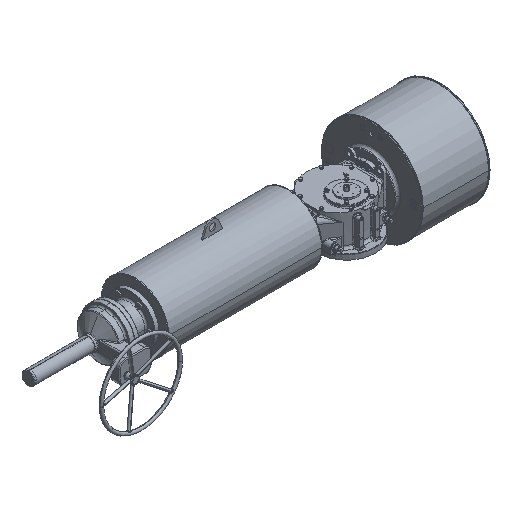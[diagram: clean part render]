
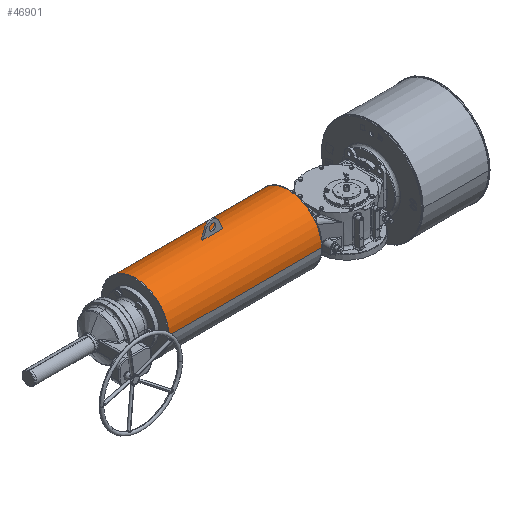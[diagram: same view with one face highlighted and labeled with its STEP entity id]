
A CAD part, isometric view. The second image highlights one B-rep face of the part: STEP entity #46901.
In plain terms, the highlighted cylindrical face has radius 203.2 mm (diameter 406.4 mm), a partial arc.
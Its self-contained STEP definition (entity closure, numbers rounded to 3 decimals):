
#459 = VERTEX_POINT ( 'NONE', #43406 ) ;
#1320 = DIRECTION ( 'NONE',  ( 0., 1., 0. ) ) ;
#5057 = AXIS2_PLACEMENT_3D ( 'NONE', #12290, #39614, #46541 ) ;
#6198 = EDGE_LOOP ( 'NONE', ( #19366, #67472, #20922, #76705, #43084 ) ) ;
#6239 = LINE ( 'NONE', #11820, #51039 ) ;
#7605 = DIRECTION ( 'NONE',  ( 1., 0., 0. ) ) ;
#8392 = CIRCLE ( 'NONE', #70436, 203.2 ) ;
#9130 = VERTEX_POINT ( 'NONE', #88243 ) ;
#9431 = EDGE_CURVE ( 'NONE', #459, #60909, #6239, .T. ) ;
#9799 = EDGE_CURVE ( 'NONE', #87753, #48203, #87529, .T. ) ;
#10972 = CARTESIAN_POINT ( 'NONE',  ( -248.3, 108., 285.7 ) ) ;
#11132 = CIRCLE ( 'NONE', #17014, 203.2 ) ;
#11820 = CARTESIAN_POINT ( 'NONE',  ( -1176.5, -95.2, 82.5 ) ) ;
#12290 = CARTESIAN_POINT ( 'NONE',  ( -1179.7, 108., 82.5 ) ) ;
#12388 = CARTESIAN_POINT ( 'NONE',  ( -654., 103., 285.638 ) ) ;
#13198 = CARTESIAN_POINT ( 'NONE',  ( -654., 108., 82.5 ) ) ;
#16468 = EDGE_CURVE ( 'NONE', #79691, #76882, #76054, .T. ) ;
#17014 = AXIS2_PLACEMENT_3D ( 'NONE', #66096, #31453, #72578 ) ;
#18894 = CARTESIAN_POINT ( 'NONE',  ( -654., 108., 82.5 ) ) ;
#19366 = ORIENTED_EDGE ( 'NONE', *, *, #50542, .T. ) ;
#20922 = ORIENTED_EDGE ( 'NONE', *, *, #41225, .T. ) ;
#22421 = DIRECTION ( 'NONE',  ( 0., 0., 1. ) ) ;
#22839 = EDGE_CURVE ( 'NONE', #87753, #74999, #11132, .T. ) ;
#22934 = AXIS2_PLACEMENT_3D ( 'NONE', #42610, #35657, #70315 ) ;
#23579 = EDGE_CURVE ( 'NONE', #27919, #62431, #46780, .T. ) ;
#27021 = ORIENTED_EDGE ( 'NONE', *, *, #22839, .T. ) ;
#27418 = EDGE_CURVE ( 'NONE', #50388, #76882, #29423, .T. ) ;
#27652 = CARTESIAN_POINT ( 'NONE',  ( -248.3, -95.2, 82.5 ) ) ;
#27919 = VERTEX_POINT ( 'NONE', #31595 ) ;
#28983 = ORIENTED_EDGE ( 'NONE', *, *, #23579, .T. ) ;
#29104 = CARTESIAN_POINT ( 'NONE',  ( -1176.5, 108., 82.5 ) ) ;
#29423 = LINE ( 'NONE', #72369, #77856 ) ;
#31453 = DIRECTION ( 'NONE',  ( -1., 0., 0. ) ) ;
#31595 = CARTESIAN_POINT ( 'NONE',  ( -774., 113., 285.638 ) ) ;
#33130 = CIRCLE ( 'NONE', #5057, 203.2 ) ;
#33573 = DIRECTION ( 'NONE',  ( 1., 0., 0. ) ) ;
#35552 = AXIS2_PLACEMENT_3D ( 'NONE', #63582, #77922, #22421 ) ;
#35657 = DIRECTION ( 'NONE',  ( -1., 0., 0. ) ) ;
#36495 = DIRECTION ( 'NONE',  ( 1., 0., 0. ) ) ;
#38810 = DIRECTION ( 'NONE',  ( 1., 0., 0. ) ) ;
#39160 = CARTESIAN_POINT ( 'NONE',  ( -1179.7, 311.2, 82.5 ) ) ;
#39614 = DIRECTION ( 'NONE',  ( 1., 0., 0. ) ) ;
#40103 = DIRECTION ( 'NONE',  ( 0., 1., 0. ) ) ;
#41225 = EDGE_CURVE ( 'NONE', #60909, #79691, #52940, .T. ) ;
#42463 = CIRCLE ( 'NONE', #54272, 203.2 ) ;
#42610 = CARTESIAN_POINT ( 'NONE',  ( -248.3, 108., 82.5 ) ) ;
#43084 = ORIENTED_EDGE ( 'NONE', *, *, #27418, .F. ) ;
#43095 = AXIS2_PLACEMENT_3D ( 'NONE', #29104, #36495, #1320 ) ;
#43406 = CARTESIAN_POINT ( 'NONE',  ( -1179.7, -95.2, 82.5 ) ) ;
#46541 = DIRECTION ( 'NONE',  ( 0., 1., 0. ) ) ;
#46780 = LINE ( 'NONE', #88832, #77585 ) ;
#46901 = ADVANCED_FACE ( 'NONE', ( #49005, #55932 ), #91064, .T. ) ;
#48203 = VERTEX_POINT ( 'NONE', #12388 ) ;
#48833 = CIRCLE ( 'NONE', #35552, 203.2 ) ;
#49005 = FACE_BOUND ( 'NONE', #54914, .T. ) ;
#50388 = VERTEX_POINT ( 'NONE', #39160 ) ;
#50542 = EDGE_CURVE ( 'NONE', #50388, #459, #33130, .T. ) ;
#51039 = VECTOR ( 'NONE', #33573, 1000. ) ;
#52385 = CARTESIAN_POINT ( 'NONE',  ( -1176.5, 103., 285.638 ) ) ;
#52660 = CARTESIAN_POINT ( 'NONE',  ( -654., 113., 285.638 ) ) ;
#52940 = CIRCLE ( 'NONE', #82452, 203.2 ) ;
#53071 = CARTESIAN_POINT ( 'NONE',  ( -774., 108., 285.7 ) ) ;
#54272 = AXIS2_PLACEMENT_3D ( 'NONE', #18894, #38810, #73881 ) ;
#54854 = CARTESIAN_POINT ( 'NONE',  ( -248.3, 108., 82.5 ) ) ;
#54914 = EDGE_LOOP ( 'NONE', ( #28983, #56229, #76148, #71442, #27021, #78083 ) ) ;
#55060 = DIRECTION ( 'NONE',  ( 1., 0., 0. ) ) ;
#55932 = FACE_OUTER_BOUND ( 'NONE', #6198, .T. ) ;
#56229 = ORIENTED_EDGE ( 'NONE', *, *, #57431, .T. ) ;
#57431 = EDGE_CURVE ( 'NONE', #62431, #9130, #8392, .T. ) ;
#60909 = VERTEX_POINT ( 'NONE', #27652 ) ;
#62431 = VERTEX_POINT ( 'NONE', #52660 ) ;
#62880 = VECTOR ( 'NONE', #74519, 1000. ) ;
#63582 = CARTESIAN_POINT ( 'NONE',  ( -774., 108., 82.5 ) ) ;
#65891 = DIRECTION ( 'NONE',  ( 1., 0., 0. ) ) ;
#66096 = CARTESIAN_POINT ( 'NONE',  ( -774., 108., 82.5 ) ) ;
#66357 = CARTESIAN_POINT ( 'NONE',  ( -248.3, 311.2, 82.5 ) ) ;
#67292 = EDGE_CURVE ( 'NONE', #74999, #27919, #48833, .T. ) ;
#67472 = ORIENTED_EDGE ( 'NONE', *, *, #9431, .T. ) ;
#70315 = DIRECTION ( 'NONE',  ( 0., 1., 0. ) ) ;
#70436 = AXIS2_PLACEMENT_3D ( 'NONE', #13198, #7605, #84378 ) ;
#71442 = ORIENTED_EDGE ( 'NONE', *, *, #9799, .F. ) ;
#72369 = CARTESIAN_POINT ( 'NONE',  ( -1176.5, 311.2, 82.5 ) ) ;
#72578 = DIRECTION ( 'NONE',  ( 0., 0., 1. ) ) ;
#73881 = DIRECTION ( 'NONE',  ( 0., 0., -1. ) ) ;
#74519 = DIRECTION ( 'NONE',  ( 1., 0., 0. ) ) ;
#74999 = VERTEX_POINT ( 'NONE', #53071 ) ;
#76054 = CIRCLE ( 'NONE', #22934, 203.2 ) ;
#76148 = ORIENTED_EDGE ( 'NONE', *, *, #78599, .T. ) ;
#76705 = ORIENTED_EDGE ( 'NONE', *, *, #16468, .T. ) ;
#76882 = VERTEX_POINT ( 'NONE', #66357 ) ;
#77294 = CARTESIAN_POINT ( 'NONE',  ( -774., 103., 285.638 ) ) ;
#77585 = VECTOR ( 'NONE', #55060, 1000. ) ;
#77856 = VECTOR ( 'NONE', #65891, 1000. ) ;
#77922 = DIRECTION ( 'NONE',  ( -1., 0., 0. ) ) ;
#78083 = ORIENTED_EDGE ( 'NONE', *, *, #67292, .T. ) ;
#78599 = EDGE_CURVE ( 'NONE', #9130, #48203, #42463, .T. ) ;
#79691 = VERTEX_POINT ( 'NONE', #10972 ) ;
#82452 = AXIS2_PLACEMENT_3D ( 'NONE', #54854, #83078, #40103 ) ;
#83078 = DIRECTION ( 'NONE',  ( -1., 0., 0. ) ) ;
#84378 = DIRECTION ( 'NONE',  ( 0., 0., -1. ) ) ;
#87529 = LINE ( 'NONE', #52385, #62880 ) ;
#87753 = VERTEX_POINT ( 'NONE', #77294 ) ;
#88243 = CARTESIAN_POINT ( 'NONE',  ( -654., 108., 285.7 ) ) ;
#88832 = CARTESIAN_POINT ( 'NONE',  ( -1176.5, 113., 285.638 ) ) ;
#91064 = CYLINDRICAL_SURFACE ( 'NONE', #43095, 203.2 ) ;
